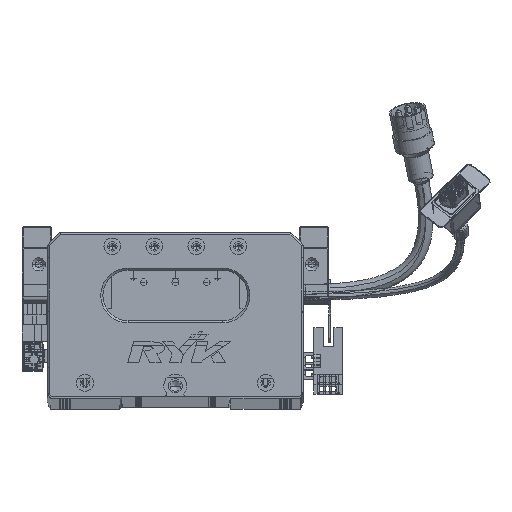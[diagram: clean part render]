
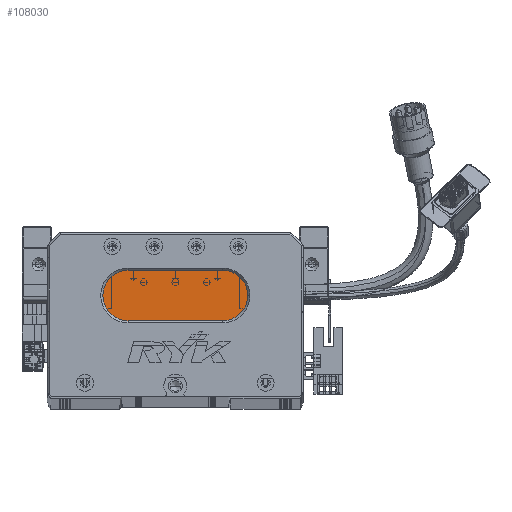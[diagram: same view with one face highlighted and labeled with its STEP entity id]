
A CAD part, top view. The second image highlights one B-rep face of the part: STEP entity #108030.
In plain terms, the highlighted planar face has unit normal (0, 0, 1) as drawn and (0, 0, -1) by its records, which use the part's own axes.
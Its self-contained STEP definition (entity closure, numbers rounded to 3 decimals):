
#1508 = AXIS2_PLACEMENT_3D ( 'NONE', #117127, #118879, #57910 ) ;
#1979 = ORIENTED_EDGE ( 'NONE', *, *, #85508, .T. ) ;
#4610 = ORIENTED_EDGE ( 'NONE', *, *, #112451, .T. ) ;
#6829 = CARTESIAN_POINT ( 'NONE',  ( 38.5, 48., 13. ) ) ;
#15282 = VERTEX_POINT ( 'NONE', #128761 ) ;
#17444 = DIRECTION ( 'NONE',  ( 1., 0., 0. ) ) ;
#17831 = CARTESIAN_POINT ( 'NONE',  ( 83.5, 48., 13. ) ) ;
#18972 = ORIENTED_EDGE ( 'NONE', *, *, #119611, .T. ) ;
#21141 = VERTEX_POINT ( 'NONE', #110883 ) ;
#28924 = DIRECTION ( 'NONE',  ( -1., 0., 0. ) ) ;
#33810 = FACE_OUTER_BOUND ( 'NONE', #101330, .T. ) ;
#34945 = CARTESIAN_POINT ( 'NONE',  ( 83.5, 36., 13. ) ) ;
#36064 = PLANE ( 'NONE',  #78054 ) ;
#37792 = VERTEX_POINT ( 'NONE', #110994 ) ;
#40983 = LINE ( 'NONE', #34945, #106292 ) ;
#44334 = DIRECTION ( 'NONE',  ( -1., 0., 0. ) ) ;
#45032 = ORIENTED_EDGE ( 'NONE', *, *, #93166, .T. ) ;
#48201 = DIRECTION ( 'NONE',  ( -1., 0., 0. ) ) ;
#49614 = AXIS2_PLACEMENT_3D ( 'NONE', #17831, #129908, #28924 ) ;
#54012 = CIRCLE ( 'NONE', #1508, 12. ) ;
#57910 = DIRECTION ( 'NONE',  ( -1., 0., 0. ) ) ;
#62718 = AXIS2_PLACEMENT_3D ( 'NONE', #6829, #89543, #48201 ) ;
#65961 = CARTESIAN_POINT ( 'NONE',  ( 83.5, 36., 13. ) ) ;
#78054 = AXIS2_PLACEMENT_3D ( 'NONE', #107300, #86786, #109049 ) ;
#85508 = EDGE_CURVE ( 'NONE', #15282, #37792, #109086, .T. ) ;
#85544 = LINE ( 'NONE', #89014, #112627 ) ;
#86786 = DIRECTION ( 'NONE',  ( 0., 0., -1. ) ) ;
#89014 = CARTESIAN_POINT ( 'NONE',  ( 83.5, 60., 13. ) ) ;
#89543 = DIRECTION ( 'NONE',  ( 0., 0., -1. ) ) ;
#93166 = EDGE_CURVE ( 'NONE', #21141, #114116, #95394, .T. ) ;
#95394 = CIRCLE ( 'NONE', #49614, 12. ) ;
#96480 = ORIENTED_EDGE ( 'NONE', *, *, #121908, .T. ) ;
#101330 = EDGE_LOOP ( 'NONE', ( #45032, #4610, #1979, #18972, #96480 ) ) ;
#106292 = VECTOR ( 'NONE', #44334, 1000. ) ;
#107300 = CARTESIAN_POINT ( 'NONE',  ( 83.5, 48., 13. ) ) ;
#108030 = ADVANCED_FACE ( 'NONE', ( #33810 ), #36064, .T. ) ;
#109049 = DIRECTION ( 'NONE',  ( -1., 0., 0. ) ) ;
#109086 = CIRCLE ( 'NONE', #62718, 12. ) ;
#110883 = CARTESIAN_POINT ( 'NONE',  ( 83.5, 60., 13. ) ) ;
#110994 = CARTESIAN_POINT ( 'NONE',  ( 26.5, 48., 13. ) ) ;
#111759 = CARTESIAN_POINT ( 'NONE',  ( 38.5, 60., 13. ) ) ;
#112451 = EDGE_CURVE ( 'NONE', #114116, #15282, #40983, .T. ) ;
#112627 = VECTOR ( 'NONE', #17444, 1000. ) ;
#114116 = VERTEX_POINT ( 'NONE', #65961 ) ;
#117127 = CARTESIAN_POINT ( 'NONE',  ( 38.5, 48., 13. ) ) ;
#118879 = DIRECTION ( 'NONE',  ( 0., 0., -1. ) ) ;
#119611 = EDGE_CURVE ( 'NONE', #37792, #131913, #54012, .T. ) ;
#121908 = EDGE_CURVE ( 'NONE', #131913, #21141, #85544, .T. ) ;
#128761 = CARTESIAN_POINT ( 'NONE',  ( 38.5, 36., 13. ) ) ;
#129908 = DIRECTION ( 'NONE',  ( 0., 0., -1. ) ) ;
#131913 = VERTEX_POINT ( 'NONE', #111759 ) ;
